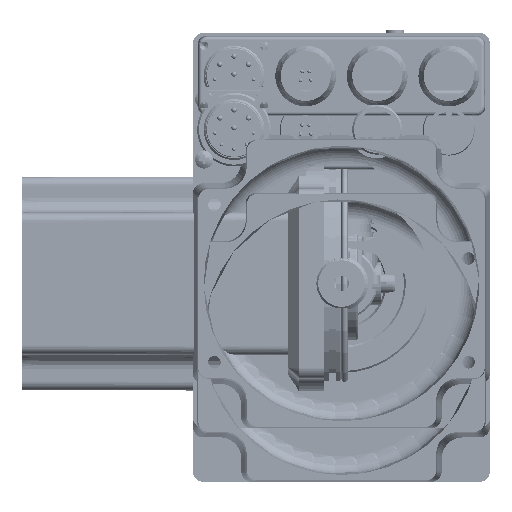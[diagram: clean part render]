
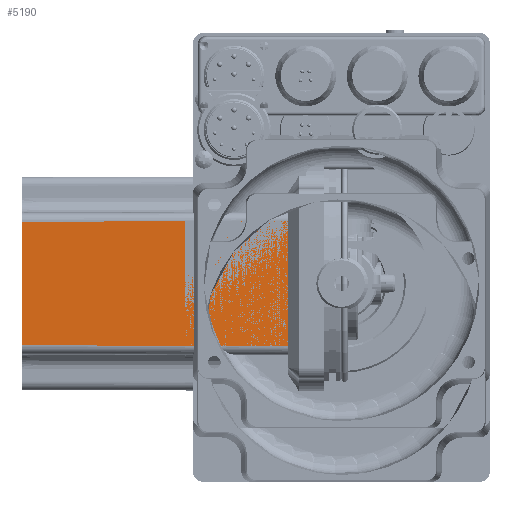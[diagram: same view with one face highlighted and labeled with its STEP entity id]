
A CAD part, front view. The second image highlights one B-rep face of the part: STEP entity #5190.
In plain terms, the highlighted planar face has unit normal (-0.003, -1, 0).
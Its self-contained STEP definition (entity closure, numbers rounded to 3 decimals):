
#5190 = ADVANCED_FACE( '', ( #10740 ), #10741, .T. );
#10740 = FACE_OUTER_BOUND( '', #27269, .T. );
#10741 = PLANE( '', #27270 );
#27269 = EDGE_LOOP( '', ( #38751, #38752, #38753, #38754 ) );
#27270 = AXIS2_PLACEMENT_3D( '', #38755, #38756, #38757 );
#38751 = ORIENTED_EDGE( '', *, *, #46021, .T. );
#38752 = ORIENTED_EDGE( '', *, *, #45198, .T. );
#38753 = ORIENTED_EDGE( '', *, *, #44553, .T. );
#38754 = ORIENTED_EDGE( '', *, *, #45954, .T. );
#38755 = CARTESIAN_POINT( '', ( -6., -30., 0. ) );
#38756 = DIRECTION( '', ( -0.003, -1., 0. ) );
#38757 = DIRECTION( '', ( 1., -0.003, 0. ) );
#44553 = EDGE_CURVE( '', #52515, #52516, #52517, .T. );
#45198 = EDGE_CURVE( '', #53390, #52515, #53391, .T. );
#45954 = EDGE_CURVE( '', #52516, #54311, #54313, .T. );
#46021 = EDGE_CURVE( '', #54311, #53390, #54386, .T. );
#52515 = VERTEX_POINT( '', #73908 );
#52516 = VERTEX_POINT( '', #73909 );
#52517 = LINE( '', #73910, #73911 );
#53390 = VERTEX_POINT( '', #75380 );
#53391 = LINE( '', #75381, #75382 );
#54311 = VERTEX_POINT( '', #76928 );
#54313 = LINE( '', #76930, #76931 );
#54386 = LINE( '', #77021, #77022 );
#73908 = CARTESIAN_POINT( '', ( -6.75, -29.998, 17.498 ) );
#73909 = CARTESIAN_POINT( '', ( -89.25, -29.758, 17.258 ) );
#73910 = CARTESIAN_POINT( '', ( -89.993, -29.756, 17.256 ) );
#73911 = VECTOR( '', #84107, 1000. );
#75380 = CARTESIAN_POINT( '', ( -6.75, -29.998, -17.498 ) );
#75381 = CARTESIAN_POINT( '', ( -6.75, -29.998, 0. ) );
#75382 = VECTOR( '', #84915, 1000. );
#76928 = CARTESIAN_POINT( '', ( -89.25, -29.758, -17.258 ) );
#76930 = CARTESIAN_POINT( '', ( -89.25, -29.758, 0. ) );
#76931 = VECTOR( '', #85643, 1000. );
#77021 = CARTESIAN_POINT( '', ( -5.993, -30., -17.5 ) );
#77022 = VECTOR( '', #85675, 1000. );
#84107 = DIRECTION( '', ( -1., 0.003, -0.003 ) );
#84915 = DIRECTION( '', ( 0., 0., 1. ) );
#85643 = DIRECTION( '', ( 0., 0., -1. ) );
#85675 = DIRECTION( '', ( 1., -0.003, -0.003 ) );
